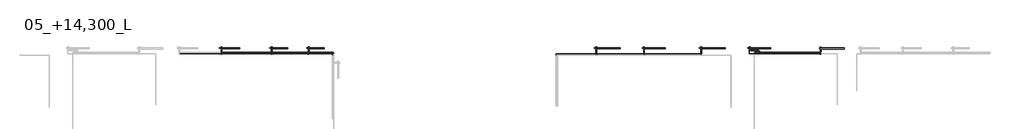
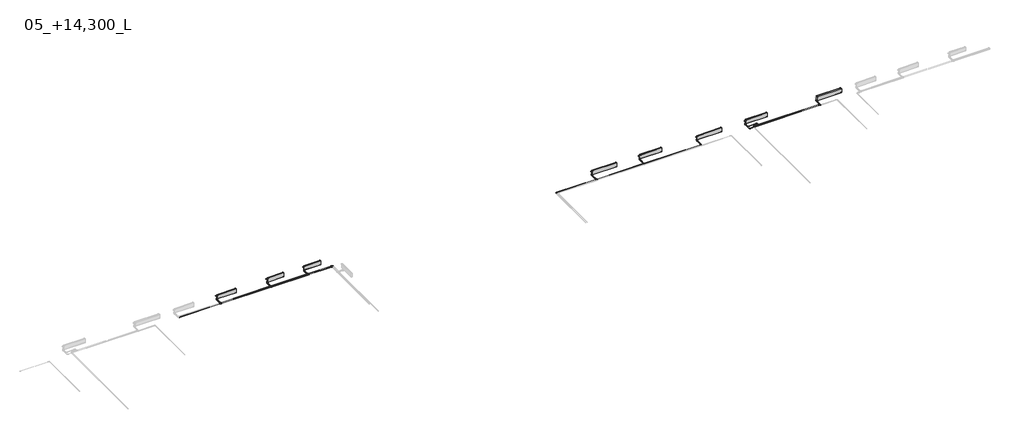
# One storey, part 14 of 15: 33 pipe fittings, 31 pipe segments, 8 proxies, 7 valves.
"""IFC4 building model written with IfcOpenShell, lengths in millimetres."""

from ifc_helpers import new_model, si_unit, point, frame, frame_2d, origin, place, context, project, spatial, circle_curve, trimmed, segment, composite_curve, outline, extrude, transform, mapped, element, save
from components import mechanical_equipment_fc217036, mechanical_equipment_c0c35615, mechanical_equipment_c68842d5, mechanical_equipment_da64a6a1, mechanical_equipment_6df30eec, pipe_fitting_44bd76dc, pipe_fitting_8f811e63, pipe_fitting_d927fdfb, valve_f5090433, valve_5b696a81, valve_d3faaedd, valve_8453c3c0

model = new_model("IFC4")

# Units and contexts
model_context = context("Model", 3, world=origin())
ifc_project = project(units=[si_unit("LENGTHUNIT", "METRE", prefix="MILLI")], contexts=[model_context])

# Site, building, storey
site = spatial("IfcSite", under=ifc_project)
building = spatial("IfcBuilding", under=site)
storey = spatial("IfcBuildingStorey", under=building, Name="05_+14,300_L", Elevation=14300.0)

# Proxies
placement = place(None, origin())
mechanical_equipment_shape = mechanical_equipment_fc217036(model_context)
element("IfcBuildingElementProxy", 1, Name="EVRA CV Д : 22-300-1800", ObjectType="EVRA CV Д : 22-300-1800", at=placement, inside=storey, context=model_context, shape_type="MappedRepresentation", body=[
    mapped(mechanical_equipment_shape, transform((67960.0, 128438.5368898, 14300.0), x_axis=(1.0, 0.0, 0.0), y_axis=(0.0, 1.0, 0.0), z_axis=(0.0, 0.0, 1.0))),
])
mechanical_equipment_2_shape = mechanical_equipment_c0c35615(model_context)
element("IfcBuildingElementProxy", 2, Name="EVRA CV Д : 21-300-1600", ObjectType="EVRA CV Д : 21-300-1600", at=placement, inside=storey, context=model_context, shape_type="MappedRepresentation", body=[
    mapped(mechanical_equipment_2_shape, transform((54900.0, 128438.5368898, 14300.0), x_axis=(1.0, 0.0, 0.0), y_axis=(0.0, 1.0, 0.0), z_axis=(0.0, 0.0, 1.0))),
])
element("IfcBuildingElementProxy", 3, Name="EVRA CV Д : 21-300-1600", ObjectType="EVRA CV Д : 21-300-1600", at=placement, inside=storey, context=model_context, shape_type="MappedRepresentation", body=[
    mapped(mechanical_equipment_2_shape, transform((62650.0, 128438.5368898, 14300.0), x_axis=(1.0, 0.0, 0.0), y_axis=(0.0, 1.0, 0.0), z_axis=(0.0, 0.0, 1.0))),
])
mechanical_equipment_3_shape = mechanical_equipment_c68842d5(model_context)
element("IfcBuildingElementProxy", 4, Name="EVRA CV Д : 21-300-1400", ObjectType="EVRA CV Д : 21-300-1400", at=placement, inside=storey, context=model_context, shape_type="MappedRepresentation", body=[
    mapped(mechanical_equipment_3_shape, transform((23800.0, 128438.5368898, 14300.0), x_axis=(1.0, 0.0, 0.0), y_axis=(0.0, 1.0, 0.0), z_axis=(0.0, 0.0, 1.0))),
])
mechanical_equipment_4_shape = mechanical_equipment_da64a6a1(model_context)
element("IfcBuildingElementProxy", 5, Name="EVRA CV Д : 21-300-1200", ObjectType="EVRA CV Д : 21-300-1200", at=placement, inside=storey, context=model_context, shape_type="MappedRepresentation", body=[
    mapped(mechanical_equipment_4_shape, transform((30100.0, 128438.5368898, 14300.0), x_axis=(1.0, 0.0, 0.0), y_axis=(0.0, 1.0, 0.0), z_axis=(0.0, 0.0, 1.0))),
])
element("IfcBuildingElementProxy", 6, Name="EVRA CV Д : 21-300-1200", ObjectType="EVRA CV Д : 21-300-1200", at=placement, inside=storey, context=model_context, shape_type="MappedRepresentation", body=[
    mapped(mechanical_equipment_4_shape, transform((27400.0, 128438.5368898, 14300.0), x_axis=(1.0, 0.0, 0.0), y_axis=(0.0, 1.0, 0.0), z_axis=(0.0, 0.0, 1.0))),
])
mechanical_equipment_5_shape = mechanical_equipment_6df30eec(model_context)
element("IfcBuildingElementProxy", 7, Name="EVRA CV Д : 21-300-1800", ObjectType="EVRA CV Д : 21-300-1800", at=placement, inside=storey, context=model_context, shape_type="MappedRepresentation", body=[
    mapped(mechanical_equipment_5_shape, transform((51500.0, 128438.5368898, 14300.0), x_axis=(1.0, 0.0, 0.0), y_axis=(0.0, 1.0, 0.0), z_axis=(0.0, 0.0, 1.0))),
])
element("IfcBuildingElementProxy", 8, Name="EVRA CV Д : 21-300-1800", ObjectType="EVRA CV Д : 21-300-1800", at=placement, inside=storey, context=model_context, shape_type="MappedRepresentation", body=[
    mapped(mechanical_equipment_5_shape, transform((59200.0, 128438.5368898, 14300.0), x_axis=(1.0, 0.0, 0.0), y_axis=(0.0, 1.0, 0.0), z_axis=(0.0, 0.0, 1.0))),
])

# Pipe fittings
pipe_fitting_shape = pipe_fitting_44bd76dc(model_context)
element("IfcPipeFitting", 9, ObjectType="ADSK_Пресс-фитинг ПЭ_Тройник : Пластик черный", at=placement, inside=storey, context=model_context, shape_type="MappedRepresentation", body=[
    mapped(pipe_fitting_shape, transform((23330.0, 128000.0, 14250.0), x_axis=(1.0, 0.0, 0.0), y_axis=(0.0, -1.0, 0.0), z_axis=(0.0, 0.0, -1.0))),
])
element("IfcPipeFitting", 10, ObjectType="ADSK_Пресс-фитинг ПЭ_Тройник : Пластик черный", at=placement, inside=storey, context=model_context, shape_type="MappedRepresentation", body=[
    mapped(pipe_fitting_shape, transform((23380.0, 128100.0, 14250.0), x_axis=(-1.0, 0.0, 0.0), y_axis=(0.0, -1.0, 0.0), z_axis=(0.0, 0.0, 1.0))),
])
element("IfcPipeFitting", 11, ObjectType="ADSK_Пресс-фитинг ПЭ_Тройник : Пластик черный", at=placement, inside=storey, context=model_context, shape_type="MappedRepresentation", body=[
    mapped(pipe_fitting_shape, transform((27030.0, 128000.0, 14250.0), x_axis=(-1.0, 0.0, 0.0), y_axis=(0.0, -1.0, 0.0), z_axis=(0.0, 0.0, 1.0))),
])
element("IfcPipeFitting", 12, ObjectType="ADSK_Пресс-фитинг ПЭ_Тройник : Пластик черный", at=placement, inside=storey, context=model_context, shape_type="MappedRepresentation", body=[
    mapped(pipe_fitting_shape, transform((27080.0, 128100.0, 14250.0), x_axis=(-1.0, 0.0, 0.0), y_axis=(0.0, -1.0, 0.0), z_axis=(0.0, 0.0, 1.0))),
])
element("IfcPipeFitting", 13, ObjectType="ADSK_Пресс-фитинг ПЭ_Тройник : Пластик черный", at=placement, inside=storey, context=model_context, shape_type="MappedRepresentation", body=[
    mapped(pipe_fitting_shape, transform((29780.0, 128100.0, 14250.0), x_axis=(1.0, 0.0, 0.0), y_axis=(0.0, -1.0, 0.0), z_axis=(0.0, 0.0, -1.0))),
])
element("IfcPipeFitting", 14, ObjectType="ADSK_Пресс-фитинг ПЭ_Тройник : Пластик черный", at=placement, inside=storey, context=model_context, shape_type="MappedRepresentation", body=[
    mapped(pipe_fitting_shape, transform((29730.0, 128000.0, 14250.0), x_axis=(1.0, 0.0, 0.0), y_axis=(0.0, -1.0, 0.0), z_axis=(0.0, 0.0, -1.0))),
])
element("IfcPipeFitting", 15, ObjectType="ADSK_Пресс-фитинг ПЭ_Тройник : Пластик черный", at=placement, inside=storey, context=model_context, shape_type="MappedRepresentation", body=[
    mapped(pipe_fitting_shape, transform((62830.0, 128100.0, 14250.0), x_axis=(-1.0, 0.0, 0.0), y_axis=(0.0, -1.0, 0.0), z_axis=(0.0, 0.0, 1.0))),
])
element("IfcPipeFitting", 16, ObjectType="ADSK_Пресс-фитинг ПЭ_Тройник : Пластик черный", at=placement, inside=storey, context=model_context, shape_type="MappedRepresentation", body=[
    mapped(pipe_fitting_shape, transform((50880.0, 128000.0, 14250.0), x_axis=(-1.0, 0.0, 0.0), y_axis=(0.0, -1.0, 0.0), z_axis=(0.0, 0.0, 1.0))),
])
element("IfcPipeFitting", 17, ObjectType="ADSK_Пресс-фитинг ПЭ_Тройник : Пластик черный", at=placement, inside=storey, context=model_context, shape_type="MappedRepresentation", body=[
    mapped(pipe_fitting_shape, transform((54380.0, 128000.0, 14250.0), x_axis=(-1.0, 0.0, 0.0), y_axis=(0.0, -1.0, 0.0), z_axis=(0.0, 0.0, 1.0))),
])
element("IfcPipeFitting", 18, ObjectType="ADSK_Пресс-фитинг ПЭ_Тройник : Пластик черный", at=placement, inside=storey, context=model_context, shape_type="MappedRepresentation", body=[
    mapped(pipe_fitting_shape, transform((67290.0, 128000.0, 14250.0), x_axis=(-1.0, 0.0, 0.0), y_axis=(0.0, -1.0, 0.0), z_axis=(0.0, 0.0, 1.0))),
])
pipe_fitting_2_shape = pipe_fitting_8f811e63(model_context)
element("IfcPipeFitting", 19, ObjectType="ADSK_Пресс-фитинг ПЭ_Поворот с фиксатором : Поворот трубы", at=placement, inside=storey, context=model_context, shape_type="MappedRepresentation", body=[
    mapped(pipe_fitting_2_shape, transform((31500.0000006, 128000.0, 14250.0), x_axis=(0.0, 1.0, 0.0), y_axis=(-1.0, 0.0, 0.0), z_axis=(0.0, 0.0, 1.0))),
])
element("IfcPipeFitting", 20, ObjectType="ADSK_Пресс-фитинг ПЭ_Поворот с фиксатором : Поворот трубы", at=placement, inside=storey, context=model_context, shape_type="MappedRepresentation", body=[
    mapped(pipe_fitting_2_shape, transform((31600.0000006, 128100.0, 14250.0), x_axis=(0.0, 1.0, 0.0), y_axis=(-1.0, 0.0, 0.0), z_axis=(0.0, 0.0, 1.0))),
])
element("IfcPipeFitting", 21, ObjectType="ADSK_Пресс-фитинг ПЭ_Поворот с фиксатором : Поворот трубы", at=placement, inside=storey, context=model_context, shape_type="MappedRepresentation", body=[
    mapped(pipe_fitting_2_shape, transform((47900.0, 128000.0, 14250.0), x_axis=(-1.0, 0.0, 0.0), y_axis=(0.0, -1.0, 0.0), z_axis=(0.0, 0.0, 1.0))),
])
element("IfcPipeFitting", 22, ObjectType="ADSK_Пресс-фитинг ПЭ_Поворот с фиксатором : Поворот трубы", at=placement, inside=storey, context=model_context, shape_type="MappedRepresentation", body=[
    mapped(pipe_fitting_2_shape, transform((62435.0, 128100.0, 14250.0), x_axis=(-1.0, 0.0, 0.0), y_axis=(0.0, -1.0, 0.0), z_axis=(0.0, 0.0, 1.0))),
])
element("IfcPipeFitting", 23, ObjectType="ADSK_Пресс-фитинг ПЭ_Поворот с фиксатором : Поворот трубы", at=placement, inside=storey, context=model_context, shape_type="MappedRepresentation", body=[
    mapped(pipe_fitting_2_shape, transform((62830.0, 128248.0, 14250.0), x_axis=(0.0, 1.0, 0.0), y_axis=(-1.0, 0.0, 0.0), z_axis=(0.0, 0.0, 1.0))),
])
element("IfcPipeFitting", 24, ObjectType="ADSK_Пресс-фитинг ПЭ_Поворот с фиксатором : Поворот трубы", at=placement, inside=storey, context=model_context, shape_type="MappedRepresentation", body=[
    mapped(pipe_fitting_2_shape, transform((62130.0, 128248.0, 14250.0), x_axis=(0.0, -1.0, 0.0), y_axis=(1.0, 0.0, 0.0), z_axis=(0.0, 0.0, 1.0))),
])
element("IfcPipeFitting", 25, ObjectType="ADSK_Пресс-фитинг ПЭ_Поворот с фиксатором : Поворот трубы", at=placement, inside=storey, context=model_context, shape_type="MappedRepresentation", body=[
    mapped(pipe_fitting_2_shape, transform((58580.0, 128000.0, 14250.0), x_axis=(1.0, 0.0, 0.0), y_axis=(0.0, 1.0, 0.0), z_axis=(0.0, 0.0, 1.0))),
])
element("IfcPipeFitting", 26, ObjectType="ADSK_Пресс-фитинг ПЭ_Поворот с фиксатором : Поворот трубы", at=placement, inside=storey, context=model_context, shape_type="MappedRepresentation", body=[
    mapped(pipe_fitting_2_shape, transform((62080.0, 128000.0, 14250.0), x_axis=(0.0, -1.0, 0.0), y_axis=(1.0, 0.0, 0.0), z_axis=(0.0, 0.0, 1.0))),
])
pipe_fitting_3_shape = pipe_fitting_d927fdfb(model_context)
element("IfcPipeFitting", 27, ObjectType="Трубка Г-образная VTm.481.PC из стены : VTm.481.PC", at=placement, inside=storey, context=model_context, shape_type="MappedRepresentation", body=[
    mapped(pipe_fitting_3_shape, transform((29730.0, 128488.0, 14250.0), x_axis=(1.0, 0.0, 0.0), y_axis=(0.0, 1.0, 0.0), z_axis=(0.0, 0.0, 1.0))),
])
element("IfcPipeFitting", 28, ObjectType="Трубка Г-образная VTm.481.PC из стены : VTm.481.PC", at=placement, inside=storey, context=model_context, shape_type="MappedRepresentation", body=[
    mapped(pipe_fitting_3_shape, transform((27030.0, 128488.0, 14250.0), x_axis=(1.0, 0.0, 0.0), y_axis=(0.0, 1.0, 0.0), z_axis=(0.0, 0.0, 1.0))),
])
element("IfcPipeFitting", 29, ObjectType="Трубка Г-образная VTm.481.PC из стены : VTm.481.PC", at=placement, inside=storey, context=model_context, shape_type="MappedRepresentation", body=[
    mapped(pipe_fitting_3_shape, transform((23330.0, 128488.0, 14250.0), x_axis=(1.0, 0.0, 0.0), y_axis=(0.0, 1.0, 0.0), z_axis=(0.0, 0.0, 1.0))),
])
element("IfcPipeFitting", 30, ObjectType="Трубка Г-образная VTm.481.PC из стены : VTm.481.PC", at=placement, inside=storey, context=model_context, shape_type="MappedRepresentation", body=[
    mapped(pipe_fitting_3_shape, transform((67290.0, 128488.0, 14250.0), x_axis=(1.0, 0.0, 0.0), y_axis=(0.0, 1.0, 0.0), z_axis=(0.0, 0.0, 1.0))),
])
element("IfcPipeFitting", 31, ObjectType="Трубка Г-образная VTm.481.PC из стены : VTm.481.PC", at=placement, inside=storey, context=model_context, shape_type="MappedRepresentation", body=[
    mapped(pipe_fitting_3_shape, transform((50830.0, 128488.0, 14250.0), x_axis=(1.0, 0.0, 0.0), y_axis=(0.0, 1.0, 0.0), z_axis=(0.0, 0.0, 1.0))),
])
element("IfcPipeFitting", 32, ObjectType="Трубка Г-образная VTm.481.PC из стены : VTm.481.PC", at=placement, inside=storey, context=model_context, shape_type="MappedRepresentation", body=[
    mapped(pipe_fitting_3_shape, transform((54330.0, 128488.0, 14250.0), x_axis=(1.0, 0.0, 0.0), y_axis=(0.0, 1.0, 0.0), z_axis=(0.0, 0.0, 1.0))),
])
element("IfcPipeFitting", 33, ObjectType="Трубка Г-образная VTm.481.PC из стены : VTm.481.PC", at=placement, inside=storey, context=model_context, shape_type="MappedRepresentation", body=[
    mapped(pipe_fitting_3_shape, transform((58530.0, 128488.0, 14250.0), x_axis=(1.0, 0.0, 0.0), y_axis=(0.0, 1.0, 0.0), z_axis=(0.0, 0.0, 1.0))),
])
element("IfcPipeFitting", 34, ObjectType="Трубка Г-образная VTm.481.PC из стены : VTm.481.PC", at=placement, inside=storey, context=model_context, shape_type="MappedRepresentation", body=[
    mapped(pipe_fitting_3_shape, transform((62080.0, 128488.0, 14250.0), x_axis=(1.0, 0.0, 0.0), y_axis=(0.0, 1.0, 0.0), z_axis=(0.0, 0.0, 1.0))),
])
element("IfcPipeFitting", 35, ObjectType="Трубка Г-образная VTm.481.PC из стены : VTm.481.PC", at=placement, inside=storey, context=model_context, shape_type="MappedRepresentation", body=[
    mapped(pipe_fitting_3_shape, transform((29780.0, 128488.0, 14250.0), x_axis=(1.0, 0.0, 0.0), y_axis=(0.0, 1.0, 0.0), z_axis=(0.0, 0.0, 1.0))),
])
element("IfcPipeFitting", 36, ObjectType="Трубка Г-образная VTm.481.PC из стены : VTm.481.PC", at=placement, inside=storey, context=model_context, shape_type="MappedRepresentation", body=[
    mapped(pipe_fitting_3_shape, transform((27080.0, 128488.0, 14250.0), x_axis=(1.0, 0.0, 0.0), y_axis=(0.0, 1.0, 0.0), z_axis=(0.0, 0.0, 1.0))),
])
element("IfcPipeFitting", 37, ObjectType="Трубка Г-образная VTm.481.PC из стены : VTm.481.PC", at=placement, inside=storey, context=model_context, shape_type="MappedRepresentation", body=[
    mapped(pipe_fitting_3_shape, transform((23380.0, 128488.0, 14250.0), x_axis=(1.0, 0.0, 0.0), y_axis=(0.0, 1.0, 0.0), z_axis=(0.0, 0.0, 1.0))),
])
element("IfcPipeFitting", 38, ObjectType="Трубка Г-образная VTm.481.PC из стены : VTm.481.PC", at=placement, inside=storey, context=model_context, shape_type="MappedRepresentation", body=[
    mapped(pipe_fitting_3_shape, transform((50880.0, 128488.0, 14250.0), x_axis=(1.0, 0.0, 0.0), y_axis=(0.0, 1.0, 0.0), z_axis=(0.0, 0.0, 1.0))),
])
element("IfcPipeFitting", 39, ObjectType="Трубка Г-образная VTm.481.PC из стены : VTm.481.PC", at=placement, inside=storey, context=model_context, shape_type="MappedRepresentation", body=[
    mapped(pipe_fitting_3_shape, transform((54380.0, 128488.0, 14250.0), x_axis=(1.0, 0.0, 0.0), y_axis=(0.0, 1.0, 0.0), z_axis=(0.0, 0.0, 1.0))),
])
element("IfcPipeFitting", 40, ObjectType="Трубка Г-образная VTm.481.PC из стены : VTm.481.PC", at=placement, inside=storey, context=model_context, shape_type="MappedRepresentation", body=[
    mapped(pipe_fitting_3_shape, transform((58580.0, 128488.0, 14250.0), x_axis=(1.0, 0.0, 0.0), y_axis=(0.0, 1.0, 0.0), z_axis=(0.0, 0.0, 1.0))),
])
element("IfcPipeFitting", 41, ObjectType="Трубка Г-образная VTm.481.PC из стены : VTm.481.PC", at=placement, inside=storey, context=model_context, shape_type="MappedRepresentation", body=[
    mapped(pipe_fitting_3_shape, transform((62130.0, 128488.0, 14250.0), x_axis=(1.0, 0.0, 0.0), y_axis=(0.0, 1.0, 0.0), z_axis=(0.0, 0.0, 1.0))),
])

# Pipe segments
element("IfcPipeSegment", 42, ObjectType="ADSK_Полиэтилен сшитый", at=placement, inside=storey, context=model_context, shape_type="SweptSolid", body=[
    extrude(outline(composite_curve([segment(trimmed(circle_curve(frame_2d((14250.0, 29730.0)), 8.0), [point((14250.0, 29738.0))], [point((14258.0, 29730.0))], False, "CARTESIAN"), True, "CONTINUOUS"), segment(trimmed(circle_curve(frame_2d((14250.0, 29730.0)), 8.0), [point((14258.0, 29730.0))], [point((14250.0, 29722.0))], False, "CARTESIAN"), True, "CONTINUOUS"), segment(trimmed(circle_curve(frame_2d((14250.0, 29730.0)), 8.0), [point((14250.0, 29722.0))], [point((14242.0, 29730.0))], False, "CARTESIAN"), True, "CONTINUOUS"), segment(trimmed(circle_curve(frame_2d((14250.0, 29730.0)), 8.0), [point((14242.0, 29730.0))], [point((14250.0, 29738.0))], False, "CARTESIAN"), True, "CONTINUOUS")], self_intersect=False)), frame((0.0, 128024.0, 0.0), z_axis=(0.0, 1.0, 0.0), x_axis=(0.0, 0.0, 1.0)), (0.0, 0.0, 1.0), 349.0),
])
element("IfcPipeSegment", 43, ObjectType="ADSK_Полиэтилен сшитый", at=placement, inside=storey, context=model_context, shape_type="SweptSolid", body=[
    extrude(outline(composite_curve([segment(trimmed(circle_curve(frame_2d((128000.0, 14250.0)), 8.0), [point((128008.0, 14250.0))], [point((128000.0, 14242.0))], False, "CARTESIAN"), True, "CONTINUOUS"), segment(trimmed(circle_curve(frame_2d((128000.0, 14250.0)), 8.0), [point((128000.0, 14242.0))], [point((127992.0, 14250.0))], False, "CARTESIAN"), True, "CONTINUOUS"), segment(trimmed(circle_curve(frame_2d((128000.0, 14250.0)), 8.0), [point((127992.0, 14250.0))], [point((128000.0, 14258.0))], False, "CARTESIAN"), True, "CONTINUOUS"), segment(trimmed(circle_curve(frame_2d((128000.0, 14250.0)), 8.0), [point((128000.0, 14258.0))], [point((128008.0, 14250.0))], False, "CARTESIAN"), True, "CONTINUOUS")], self_intersect=False)), frame((27050.0, 0.0, 0.0), z_axis=(1.0, 0.0, 0.0), x_axis=(0.0, 1.0, 0.0)), (0.0, 0.0, 1.0), 2660.0),
])
element("IfcPipeSegment", 44, ObjectType="ADSK_Полиэтилен сшитый", at=placement, inside=storey, context=model_context, shape_type="SweptSolid", body=[
    extrude(outline(composite_curve([segment(trimmed(circle_curve(frame_2d((14250.0, 29780.0)), 8.0), [point((14250.0, 29788.0))], [point((14258.0, 29780.0))], False, "CARTESIAN"), True, "CONTINUOUS"), segment(trimmed(circle_curve(frame_2d((14250.0, 29780.0)), 8.0), [point((14258.0, 29780.0))], [point((14250.0, 29772.0))], False, "CARTESIAN"), True, "CONTINUOUS"), segment(trimmed(circle_curve(frame_2d((14250.0, 29780.0)), 8.0), [point((14250.0, 29772.0))], [point((14242.0, 29780.0))], False, "CARTESIAN"), True, "CONTINUOUS"), segment(trimmed(circle_curve(frame_2d((14250.0, 29780.0)), 8.0), [point((14242.0, 29780.0))], [point((14250.0, 29788.0))], False, "CARTESIAN"), True, "CONTINUOUS")], self_intersect=False)), frame((0.0, 128124.0, 0.0), z_axis=(0.0, 1.0, 0.0), x_axis=(0.0, 0.0, 1.0)), (0.0, 0.0, 1.0), 249.0),
])
element("IfcPipeSegment", 45, ObjectType="ADSK_Полиэтилен сшитый", at=placement, inside=storey, context=model_context, shape_type="SweptSolid", body=[
    extrude(outline(composite_curve([segment(trimmed(circle_curve(frame_2d((128100.0, 14250.0)), 8.0), [point((128108.0, 14250.0))], [point((128100.0, 14242.0))], False, "CARTESIAN"), True, "CONTINUOUS"), segment(trimmed(circle_curve(frame_2d((128100.0, 14250.0)), 8.0), [point((128100.0, 14242.0))], [point((128092.0, 14250.0))], False, "CARTESIAN"), True, "CONTINUOUS"), segment(trimmed(circle_curve(frame_2d((128100.0, 14250.0)), 8.0), [point((128092.0, 14250.0))], [point((128100.0, 14258.0))], False, "CARTESIAN"), True, "CONTINUOUS"), segment(trimmed(circle_curve(frame_2d((128100.0, 14250.0)), 8.0), [point((128100.0, 14258.0))], [point((128108.0, 14250.0))], False, "CARTESIAN"), True, "CONTINUOUS")], self_intersect=False)), frame((27100.0, 0.0, 0.0), z_axis=(1.0, 0.0, 0.0), x_axis=(0.0, 1.0, 0.0)), (0.0, 0.0, 1.0), 2660.0),
])
element("IfcPipeSegment", 46, ObjectType="ADSK_Полиэтилен сшитый", at=placement, inside=storey, context=model_context, shape_type="SweptSolid", body=[
    extrude(outline(composite_curve([segment(trimmed(circle_curve(frame_2d((14250.0, 23380.0)), 8.0), [point((14250.0, 23388.0))], [point((14258.0, 23380.0))], False, "CARTESIAN"), True, "CONTINUOUS"), segment(trimmed(circle_curve(frame_2d((14250.0, 23380.0)), 8.0), [point((14258.0, 23380.0))], [point((14250.0, 23372.0))], False, "CARTESIAN"), True, "CONTINUOUS"), segment(trimmed(circle_curve(frame_2d((14250.0, 23380.0)), 8.0), [point((14250.0, 23372.0))], [point((14242.0, 23380.0))], False, "CARTESIAN"), True, "CONTINUOUS"), segment(trimmed(circle_curve(frame_2d((14250.0, 23380.0)), 8.0), [point((14242.0, 23380.0))], [point((14250.0, 23388.0))], False, "CARTESIAN"), True, "CONTINUOUS")], self_intersect=False)), frame((0.0, 128124.0, 0.0), z_axis=(0.0, 1.0, 0.0), x_axis=(0.0, 0.0, 1.0)), (0.0, 0.0, 1.0), 249.0),
])
element("IfcPipeSegment", 47, ObjectType="ADSK_Полиэтилен сшитый", at=placement, inside=storey, context=model_context, shape_type="SweptSolid", body=[
    extrude(outline(composite_curve([segment(trimmed(circle_curve(frame_2d((14250.0, 23330.0)), 8.0), [point((14250.0, 23338.0))], [point((14258.0, 23330.0))], False, "CARTESIAN"), True, "CONTINUOUS"), segment(trimmed(circle_curve(frame_2d((14250.0, 23330.0)), 8.0), [point((14258.0, 23330.0))], [point((14250.0, 23322.0))], False, "CARTESIAN"), True, "CONTINUOUS"), segment(trimmed(circle_curve(frame_2d((14250.0, 23330.0)), 8.0), [point((14250.0, 23322.0))], [point((14242.0, 23330.0))], False, "CARTESIAN"), True, "CONTINUOUS"), segment(trimmed(circle_curve(frame_2d((14250.0, 23330.0)), 8.0), [point((14242.0, 23330.0))], [point((14250.0, 23338.0))], False, "CARTESIAN"), True, "CONTINUOUS")], self_intersect=False)), frame((0.0, 128024.0, 0.0), z_axis=(0.0, 1.0, 0.0), x_axis=(0.0, 0.0, 1.0)), (0.0, 0.0, 1.0), 349.0),
])
element("IfcPipeSegment", 48, ObjectType="ADSK_Полиэтилен сшитый", at=placement, inside=storey, context=model_context, shape_type="SweptSolid", body=[
    extrude(outline(composite_curve([segment(trimmed(circle_curve(frame_2d((128000.0, 14250.0)), 8.0), [point((127992.0, 14250.0))], [point((128000.0, 14258.0))], False, "CARTESIAN"), True, "CONTINUOUS"), segment(trimmed(circle_curve(frame_2d((128000.0, 14250.0)), 8.0), [point((128000.0, 14258.0))], [point((128008.0, 14250.0))], False, "CARTESIAN"), True, "CONTINUOUS"), segment(trimmed(circle_curve(frame_2d((128000.0, 14250.0)), 8.0), [point((128008.0, 14250.0))], [point((128000.0, 14242.0))], False, "CARTESIAN"), True, "CONTINUOUS"), segment(trimmed(circle_curve(frame_2d((128000.0, 14250.0)), 8.0), [point((128000.0, 14242.0))], [point((127992.0, 14250.0))], False, "CARTESIAN"), True, "CONTINUOUS")], self_intersect=False)), frame((20278.0, 0.0, 0.0), z_axis=(1.0, 0.0, 0.0), x_axis=(0.0, 1.0, 0.0)), (0.0, 0.0, 1.0), 3032.0),
])
element("IfcPipeSegment", 49, ObjectType="ADSK_Полиэтилен сшитый", at=placement, inside=storey, context=model_context, shape_type="SweptSolid", body=[
    extrude(outline(composite_curve([segment(trimmed(circle_curve(frame_2d((14250.0, 27080.0)), 8.0), [point((14250.0, 27088.0))], [point((14258.0, 27080.0))], False, "CARTESIAN"), True, "CONTINUOUS"), segment(trimmed(circle_curve(frame_2d((14250.0, 27080.0)), 8.0), [point((14258.0, 27080.0))], [point((14250.0, 27072.0))], False, "CARTESIAN"), True, "CONTINUOUS"), segment(trimmed(circle_curve(frame_2d((14250.0, 27080.0)), 8.0), [point((14250.0, 27072.0))], [point((14242.0, 27080.0))], False, "CARTESIAN"), True, "CONTINUOUS"), segment(trimmed(circle_curve(frame_2d((14250.0, 27080.0)), 8.0), [point((14242.0, 27080.0))], [point((14250.0, 27088.0))], False, "CARTESIAN"), True, "CONTINUOUS")], self_intersect=False)), frame((0.0, 128124.0, 0.0), z_axis=(0.0, 1.0, 0.0), x_axis=(0.0, 0.0, 1.0)), (0.0, 0.0, 1.0), 249.0),
])
element("IfcPipeSegment", 50, ObjectType="ADSK_Полиэтилен сшитый", at=placement, inside=storey, context=model_context, shape_type="SweptSolid", body=[
    extrude(outline(composite_curve([segment(trimmed(circle_curve(frame_2d((14250.0, 27030.0)), 8.0), [point((14250.0, 27038.0))], [point((14258.0, 27030.0))], False, "CARTESIAN"), True, "CONTINUOUS"), segment(trimmed(circle_curve(frame_2d((14250.0, 27030.0)), 8.0), [point((14258.0, 27030.0))], [point((14250.0, 27022.0))], False, "CARTESIAN"), True, "CONTINUOUS"), segment(trimmed(circle_curve(frame_2d((14250.0, 27030.0)), 8.0), [point((14250.0, 27022.0))], [point((14242.0, 27030.0))], False, "CARTESIAN"), True, "CONTINUOUS"), segment(trimmed(circle_curve(frame_2d((14250.0, 27030.0)), 8.0), [point((14242.0, 27030.0))], [point((14250.0, 27038.0))], False, "CARTESIAN"), True, "CONTINUOUS")], self_intersect=False)), frame((0.0, 128024.0, 0.0), z_axis=(0.0, 1.0, 0.0), x_axis=(0.0, 0.0, 1.0)), (0.0, 0.0, 1.0), 349.0),
])
element("IfcPipeSegment", 51, ObjectType="ADSK_Полиэтилен сшитый", at=placement, inside=storey, context=model_context, shape_type="SweptSolid", body=[
    extrude(outline(composite_curve([segment(trimmed(circle_curve(frame_2d((128100.0, 14250.0)), 8.0), [point((128108.0, 14250.0))], [point((128100.0, 14242.0))], False, "CARTESIAN"), True, "CONTINUOUS"), segment(trimmed(circle_curve(frame_2d((128100.0, 14250.0)), 8.0), [point((128100.0, 14242.0))], [point((128092.0, 14250.0))], False, "CARTESIAN"), True, "CONTINUOUS"), segment(trimmed(circle_curve(frame_2d((128100.0, 14250.0)), 8.0), [point((128092.0, 14250.0))], [point((128100.0, 14258.0))], False, "CARTESIAN"), True, "CONTINUOUS"), segment(trimmed(circle_curve(frame_2d((128100.0, 14250.0)), 8.0), [point((128100.0, 14258.0))], [point((128108.0, 14250.0))], False, "CARTESIAN"), True, "CONTINUOUS")], self_intersect=False)), frame((23400.0, 0.0, 0.0), z_axis=(1.0, 0.0, 0.0), x_axis=(0.0, 1.0, 0.0)), (0.0, 0.0, 1.0), 3660.0),
])
element("IfcPipeSegment", 52, ObjectType="ADSK_Полиэтилен сшитый", at=placement, inside=storey, context=model_context, shape_type="SweptSolid", body=[
    extrude(outline(composite_curve([segment(trimmed(circle_curve(frame_2d((128000.0, 14250.0)), 8.0), [point((127992.0, 14250.0))], [point((128000.0, 14258.0))], False, "CARTESIAN"), True, "CONTINUOUS"), segment(trimmed(circle_curve(frame_2d((128000.0, 14250.0)), 8.0), [point((128000.0, 14258.0))], [point((128008.0, 14250.0))], False, "CARTESIAN"), True, "CONTINUOUS"), segment(trimmed(circle_curve(frame_2d((128000.0, 14250.0)), 8.0), [point((128008.0, 14250.0))], [point((128000.0, 14242.0))], False, "CARTESIAN"), True, "CONTINUOUS"), segment(trimmed(circle_curve(frame_2d((128000.0, 14250.0)), 8.0), [point((128000.0, 14242.0))], [point((127992.0, 14250.0))], False, "CARTESIAN"), True, "CONTINUOUS")], self_intersect=False)), frame((23350.0, 0.0, 0.0), z_axis=(1.0, 0.0, 0.0), x_axis=(0.0, 1.0, 0.0)), (0.0, 0.0, 1.0), 3660.0),
])
element("IfcPipeSegment", 53, ObjectType="ADSK_Полиэтилен сшитый", at=placement, inside=storey, context=model_context, shape_type="SweptSolid", body=[
    extrude(outline(composite_curve([segment(trimmed(circle_curve(frame_2d((128100.0, 14250.0)), 8.0), [point((128108.0, 14250.0))], [point((128100.0, 14242.0))], False, "CARTESIAN"), True, "CONTINUOUS"), segment(trimmed(circle_curve(frame_2d((128100.0, 14250.0)), 8.0), [point((128100.0, 14242.0))], [point((128092.0, 14250.0))], False, "CARTESIAN"), True, "CONTINUOUS"), segment(trimmed(circle_curve(frame_2d((128100.0, 14250.0)), 8.0), [point((128092.0, 14250.0))], [point((128100.0, 14258.0))], False, "CARTESIAN"), True, "CONTINUOUS"), segment(trimmed(circle_curve(frame_2d((128100.0, 14250.0)), 8.0), [point((128100.0, 14258.0))], [point((128108.0, 14250.0))], False, "CARTESIAN"), True, "CONTINUOUS")], self_intersect=False)), frame((29800.0, 0.0, 0.0), z_axis=(1.0, 0.0, 0.0), x_axis=(0.0, 1.0, 0.0)), (0.0, 0.0, 1.0), 1752.0000006),
])
element("IfcPipeSegment", 54, ObjectType="ADSK_Полиэтилен сшитый", at=placement, inside=storey, context=model_context, shape_type="SweptSolid", body=[
    extrude(outline(composite_curve([segment(trimmed(circle_curve(frame_2d((128000.0, 14250.0)), 8.0), [point((128008.0, 14250.0))], [point((128000.0, 14242.0))], False, "CARTESIAN"), True, "CONTINUOUS"), segment(trimmed(circle_curve(frame_2d((128000.0, 14250.0)), 8.0), [point((128000.0, 14242.0))], [point((127992.0, 14250.0))], False, "CARTESIAN"), True, "CONTINUOUS"), segment(trimmed(circle_curve(frame_2d((128000.0, 14250.0)), 8.0), [point((127992.0, 14250.0))], [point((128000.0, 14258.0))], False, "CARTESIAN"), True, "CONTINUOUS"), segment(trimmed(circle_curve(frame_2d((128000.0, 14250.0)), 8.0), [point((128000.0, 14258.0))], [point((128008.0, 14250.0))], False, "CARTESIAN"), True, "CONTINUOUS")], self_intersect=False)), frame((29750.0, 0.0, 0.0), z_axis=(1.0, 0.0, 0.0), x_axis=(0.0, 1.0, 0.0)), (0.0, 0.0, 1.0), 1702.0000006),
])
element("IfcPipeSegment", 55, ObjectType="ADSK_Полиэтилен сшитый", at=placement, inside=storey, context=model_context, shape_type="SweptSolid", body=[
    extrude(outline(composite_curve([segment(trimmed(circle_curve(frame_2d((14250.0, 58580.0)), 8.0), [point((14250.0, 58588.0))], [point((14258.0, 58580.0))], False, "CARTESIAN"), True, "CONTINUOUS"), segment(trimmed(circle_curve(frame_2d((14250.0, 58580.0)), 8.0), [point((14258.0, 58580.0))], [point((14250.0, 58572.0))], False, "CARTESIAN"), True, "CONTINUOUS"), segment(trimmed(circle_curve(frame_2d((14250.0, 58580.0)), 8.0), [point((14250.0, 58572.0))], [point((14242.0, 58580.0))], False, "CARTESIAN"), True, "CONTINUOUS"), segment(trimmed(circle_curve(frame_2d((14250.0, 58580.0)), 8.0), [point((14242.0, 58580.0))], [point((14250.0, 58588.0))], False, "CARTESIAN"), True, "CONTINUOUS")], self_intersect=False)), frame((0.0, 128048.0, 0.0), z_axis=(0.0, 1.0, 0.0), x_axis=(0.0, 0.0, 1.0)), (0.0, 0.0, 1.0), 325.0),
])
element("IfcPipeSegment", 56, ObjectType="ADSK_Полиэтилен сшитый", at=placement, inside=storey, context=model_context, shape_type="SweptSolid", body=[
    extrude(outline(composite_curve([segment(trimmed(circle_curve(frame_2d((14250.0, 58530.0)), 8.0), [point((14250.0, 58538.0))], [point((14258.0, 58530.0))], False, "CARTESIAN"), True, "CONTINUOUS"), segment(trimmed(circle_curve(frame_2d((14250.0, 58530.0)), 8.0), [point((14258.0, 58530.0))], [point((14250.0, 58522.0))], False, "CARTESIAN"), True, "CONTINUOUS"), segment(trimmed(circle_curve(frame_2d((14250.0, 58530.0)), 8.0), [point((14250.0, 58522.0))], [point((14242.0, 58530.0))], False, "CARTESIAN"), True, "CONTINUOUS"), segment(trimmed(circle_curve(frame_2d((14250.0, 58530.0)), 8.0), [point((14242.0, 58530.0))], [point((14250.0, 58538.0))], False, "CARTESIAN"), True, "CONTINUOUS")], self_intersect=False)), frame((0.0, 127926.0, 0.0), z_axis=(0.0, 1.0, 0.0), x_axis=(0.0, 0.0, 1.0)), (0.0, 0.0, 1.0), 447.0),
])
element("IfcPipeSegment", 57, ObjectType="ADSK_Полиэтилен сшитый", at=placement, inside=storey, context=model_context, shape_type="SweptSolid", body=[
    extrude(outline(composite_curve([segment(trimmed(circle_curve(frame_2d((128000.0, 14250.0)), 8.0), [point((127992.0, 14250.0))], [point((128000.0, 14258.0))], False, "CARTESIAN"), True, "CONTINUOUS"), segment(trimmed(circle_curve(frame_2d((128000.0, 14250.0)), 8.0), [point((128000.0, 14258.0))], [point((128008.0, 14250.0))], False, "CARTESIAN"), True, "CONTINUOUS"), segment(trimmed(circle_curve(frame_2d((128000.0, 14250.0)), 8.0), [point((128008.0, 14250.0))], [point((128000.0, 14242.0))], False, "CARTESIAN"), True, "CONTINUOUS"), segment(trimmed(circle_curve(frame_2d((128000.0, 14250.0)), 8.0), [point((128000.0, 14242.0))], [point((127992.0, 14250.0))], False, "CARTESIAN"), True, "CONTINUOUS")], self_intersect=False)), frame((54400.0, 0.0, 0.0), z_axis=(1.0, 0.0, 0.0), x_axis=(0.0, 1.0, 0.0)), (0.0, 0.0, 1.0), 4132.0),
])
element("IfcPipeSegment", 58, ObjectType="ADSK_Полиэтилен сшитый", at=placement, inside=storey, context=model_context, shape_type="SweptSolid", body=[
    extrude(outline(composite_curve([segment(trimmed(circle_curve(frame_2d((14250.0, 54380.0)), 8.0), [point((14250.0, 54388.0))], [point((14258.0, 54380.0))], False, "CARTESIAN"), True, "CONTINUOUS"), segment(trimmed(circle_curve(frame_2d((14250.0, 54380.0)), 8.0), [point((14258.0, 54380.0))], [point((14250.0, 54372.0))], False, "CARTESIAN"), True, "CONTINUOUS"), segment(trimmed(circle_curve(frame_2d((14250.0, 54380.0)), 8.0), [point((14250.0, 54372.0))], [point((14242.0, 54380.0))], False, "CARTESIAN"), True, "CONTINUOUS"), segment(trimmed(circle_curve(frame_2d((14250.0, 54380.0)), 8.0), [point((14242.0, 54380.0))], [point((14250.0, 54388.0))], False, "CARTESIAN"), True, "CONTINUOUS")], self_intersect=False)), frame((0.0, 128024.0, 0.0), z_axis=(0.0, 1.0, 0.0), x_axis=(0.0, 0.0, 1.0)), (0.0, 0.0, 1.0), 349.0),
])
element("IfcPipeSegment", 59, ObjectType="ADSK_Полиэтилен сшитый", at=placement, inside=storey, context=model_context, shape_type="SweptSolid", body=[
    extrude(outline(composite_curve([segment(trimmed(circle_curve(frame_2d((14250.0, 54330.0)), 8.0), [point((14250.0, 54338.0))], [point((14258.0, 54330.0))], False, "CARTESIAN"), True, "CONTINUOUS"), segment(trimmed(circle_curve(frame_2d((14250.0, 54330.0)), 8.0), [point((14258.0, 54330.0))], [point((14250.0, 54322.0))], False, "CARTESIAN"), True, "CONTINUOUS"), segment(trimmed(circle_curve(frame_2d((14250.0, 54330.0)), 8.0), [point((14250.0, 54322.0))], [point((14242.0, 54330.0))], False, "CARTESIAN"), True, "CONTINUOUS"), segment(trimmed(circle_curve(frame_2d((14250.0, 54330.0)), 8.0), [point((14242.0, 54330.0))], [point((14250.0, 54338.0))], False, "CARTESIAN"), True, "CONTINUOUS")], self_intersect=False)), frame((0.0, 127924.0, 0.0), z_axis=(0.0, 1.0, 0.0), x_axis=(0.0, 0.0, 1.0)), (0.0, 0.0, 1.0), 449.0),
])
element("IfcPipeSegment", 60, ObjectType="ADSK_Полиэтилен сшитый", at=placement, inside=storey, context=model_context, shape_type="SweptSolid", body=[
    extrude(outline(composite_curve([segment(trimmed(circle_curve(frame_2d((14250.0, 50880.0)), 8.0), [point((14250.0, 50888.0))], [point((14258.0, 50880.0))], False, "CARTESIAN"), True, "CONTINUOUS"), segment(trimmed(circle_curve(frame_2d((14250.0, 50880.0)), 8.0), [point((14258.0, 50880.0))], [point((14250.0, 50872.0))], False, "CARTESIAN"), True, "CONTINUOUS"), segment(trimmed(circle_curve(frame_2d((14250.0, 50880.0)), 8.0), [point((14250.0, 50872.0))], [point((14242.0, 50880.0))], False, "CARTESIAN"), True, "CONTINUOUS"), segment(trimmed(circle_curve(frame_2d((14250.0, 50880.0)), 8.0), [point((14242.0, 50880.0))], [point((14250.0, 50888.0))], False, "CARTESIAN"), True, "CONTINUOUS")], self_intersect=False)), frame((0.0, 128026.0, 0.0), z_axis=(0.0, 1.0, 0.0), x_axis=(0.0, 0.0, 1.0)), (0.0, 0.0, 1.0), 347.0),
])
element("IfcPipeSegment", 61, ObjectType="ADSK_Полиэтилен сшитый", at=placement, inside=storey, context=model_context, shape_type="SweptSolid", body=[
    extrude(outline(composite_curve([segment(trimmed(circle_curve(frame_2d((14250.0, 50830.0)), 8.0), [point((14250.0, 50838.0))], [point((14258.0, 50830.0))], False, "CARTESIAN"), True, "CONTINUOUS"), segment(trimmed(circle_curve(frame_2d((14250.0, 50830.0)), 8.0), [point((14258.0, 50830.0))], [point((14250.0, 50822.0))], False, "CARTESIAN"), True, "CONTINUOUS"), segment(trimmed(circle_curve(frame_2d((14250.0, 50830.0)), 8.0), [point((14250.0, 50822.0))], [point((14242.0, 50830.0))], False, "CARTESIAN"), True, "CONTINUOUS"), segment(trimmed(circle_curve(frame_2d((14250.0, 50830.0)), 8.0), [point((14242.0, 50830.0))], [point((14250.0, 50838.0))], False, "CARTESIAN"), True, "CONTINUOUS")], self_intersect=False)), frame((0.0, 127924.0, 0.0), z_axis=(0.0, 1.0, 0.0), x_axis=(0.0, 0.0, 1.0)), (0.0, 0.0, 1.0), 449.0),
])
element("IfcPipeSegment", 62, ObjectType="ADSK_Полиэтилен сшитый", at=placement, inside=storey, context=model_context, shape_type="SweptSolid", body=[
    extrude(outline(composite_curve([segment(trimmed(circle_curve(frame_2d((14250.0, 62830.0)), 8.0), [point((14250.0, 62838.0))], [point((14258.0, 62830.0))], False, "CARTESIAN"), True, "CONTINUOUS"), segment(trimmed(circle_curve(frame_2d((14250.0, 62830.0)), 8.0), [point((14258.0, 62830.0))], [point((14250.0, 62822.0))], False, "CARTESIAN"), True, "CONTINUOUS"), segment(trimmed(circle_curve(frame_2d((14250.0, 62830.0)), 8.0), [point((14250.0, 62822.0))], [point((14242.0, 62830.0))], False, "CARTESIAN"), True, "CONTINUOUS"), segment(trimmed(circle_curve(frame_2d((14250.0, 62830.0)), 8.0), [point((14242.0, 62830.0))], [point((14250.0, 62838.0))], False, "CARTESIAN"), True, "CONTINUOUS")], self_intersect=False)), frame((0.0, 128126.0, 0.0), z_axis=(0.0, 1.0, 0.0), x_axis=(0.0, 0.0, 1.0)), (0.0, 0.0, 1.0), 74.0),
])
element("IfcPipeSegment", 63, ObjectType="ADSK_Полиэтилен сшитый", at=placement, inside=storey, context=model_context, shape_type="SweptSolid", body=[
    extrude(outline(composite_curve([segment(trimmed(circle_curve(frame_2d((128100.0, 14250.0)), 8.0), [point((128092.0, 14250.0))], [point((128100.0, 14258.0))], False, "CARTESIAN"), True, "CONTINUOUS"), segment(trimmed(circle_curve(frame_2d((128100.0, 14250.0)), 8.0), [point((128100.0, 14258.0))], [point((128108.0, 14250.0))], False, "CARTESIAN"), True, "CONTINUOUS"), segment(trimmed(circle_curve(frame_2d((128100.0, 14250.0)), 8.0), [point((128108.0, 14250.0))], [point((128100.0, 14242.0))], False, "CARTESIAN"), True, "CONTINUOUS"), segment(trimmed(circle_curve(frame_2d((128100.0, 14250.0)), 8.0), [point((128100.0, 14242.0))], [point((128092.0, 14250.0))], False, "CARTESIAN"), True, "CONTINUOUS")], self_intersect=False)), frame((62483.0, 0.0, 0.0), z_axis=(1.0, 0.0, 0.0), x_axis=(0.0, 1.0, 0.0)), (0.0, 0.0, 1.0), 328.0),
])
element("IfcPipeSegment", 64, ObjectType="ADSK_Полиэтилен сшитый", at=placement, inside=storey, context=model_context, shape_type="SweptSolid", body=[
    extrude(outline(composite_curve([segment(trimmed(circle_curve(frame_2d((128000.0, 14250.0)), 8.0), [point((127992.0, 14250.0))], [point((128000.0, 14258.0))], False, "CARTESIAN"), True, "CONTINUOUS"), segment(trimmed(circle_curve(frame_2d((128000.0, 14250.0)), 8.0), [point((128000.0, 14258.0))], [point((128008.0, 14250.0))], False, "CARTESIAN"), True, "CONTINUOUS"), segment(trimmed(circle_curve(frame_2d((128000.0, 14250.0)), 8.0), [point((128008.0, 14250.0))], [point((128000.0, 14242.0))], False, "CARTESIAN"), True, "CONTINUOUS"), segment(trimmed(circle_curve(frame_2d((128000.0, 14250.0)), 8.0), [point((128000.0, 14242.0))], [point((127992.0, 14250.0))], False, "CARTESIAN"), True, "CONTINUOUS")], self_intersect=False)), frame((62128.0, 0.0, 0.0), z_axis=(1.0, 0.0, 0.0), x_axis=(0.0, 1.0, 0.0)), (0.0, 0.0, 1.0), 5142.0),
])
element("IfcPipeSegment", 65, ObjectType="ADSK_Полиэтилен сшитый", at=placement, inside=storey, context=model_context, shape_type="SweptSolid", body=[
    extrude(outline(composite_curve([segment(trimmed(circle_curve(frame_2d((14250.0, 67340.0)), 8.0), [point((14250.0, 67348.0))], [point((14258.0, 67340.0))], False, "CARTESIAN"), True, "CONTINUOUS"), segment(trimmed(circle_curve(frame_2d((14250.0, 67340.0)), 8.0), [point((14258.0, 67340.0))], [point((14250.0, 67332.0))], False, "CARTESIAN"), True, "CONTINUOUS"), segment(trimmed(circle_curve(frame_2d((14250.0, 67340.0)), 8.0), [point((14250.0, 67332.0))], [point((14242.0, 67340.0))], False, "CARTESIAN"), True, "CONTINUOUS"), segment(trimmed(circle_curve(frame_2d((14250.0, 67340.0)), 8.0), [point((14242.0, 67340.0))], [point((14250.0, 67348.0))], False, "CARTESIAN"), True, "CONTINUOUS")], self_intersect=False)), frame((0.0, 128148.0, 0.0), z_axis=(0.0, 1.0, 0.0), x_axis=(0.0, 0.0, 1.0)), (0.0, 0.0, 1.0), 225.0),
])
element("IfcPipeSegment", 66, ObjectType="ADSK_Полиэтилен сшитый", at=placement, inside=storey, context=model_context, shape_type="SweptSolid", body=[
    extrude(outline(composite_curve([segment(trimmed(circle_curve(frame_2d((128100.0, 14250.0)), 8.0), [point((128092.0, 14250.0))], [point((128100.0, 14258.0))], False, "CARTESIAN"), True, "CONTINUOUS"), segment(trimmed(circle_curve(frame_2d((128100.0, 14250.0)), 8.0), [point((128100.0, 14258.0))], [point((128108.0, 14250.0))], False, "CARTESIAN"), True, "CONTINUOUS"), segment(trimmed(circle_curve(frame_2d((128100.0, 14250.0)), 8.0), [point((128108.0, 14250.0))], [point((128100.0, 14242.0))], False, "CARTESIAN"), True, "CONTINUOUS"), segment(trimmed(circle_curve(frame_2d((128100.0, 14250.0)), 8.0), [point((128100.0, 14242.0))], [point((128092.0, 14250.0))], False, "CARTESIAN"), True, "CONTINUOUS")], self_intersect=False)), frame((62849.0, 0.0, 0.0), z_axis=(1.0, 0.0, 0.0), x_axis=(0.0, 1.0, 0.0)), (0.0, 0.0, 1.0), 4443.0),
])
element("IfcPipeSegment", 67, ObjectType="ADSK_Полиэтилен сшитый", at=placement, inside=storey, context=model_context, shape_type="SweptSolid", body=[
    extrude(outline(composite_curve([segment(trimmed(circle_curve(frame_2d((14250.0, 67290.0)), 8.0), [point((14250.0, 67298.0))], [point((14258.0, 67290.0))], False, "CARTESIAN"), True, "CONTINUOUS"), segment(trimmed(circle_curve(frame_2d((14250.0, 67290.0)), 8.0), [point((14258.0, 67290.0))], [point((14250.0, 67282.0))], False, "CARTESIAN"), True, "CONTINUOUS"), segment(trimmed(circle_curve(frame_2d((14250.0, 67290.0)), 8.0), [point((14250.0, 67282.0))], [point((14242.0, 67290.0))], False, "CARTESIAN"), True, "CONTINUOUS"), segment(trimmed(circle_curve(frame_2d((14250.0, 67290.0)), 8.0), [point((14242.0, 67290.0))], [point((14250.0, 67298.0))], False, "CARTESIAN"), True, "CONTINUOUS")], self_intersect=False)), frame((0.0, 128024.0, 0.0), z_axis=(0.0, 1.0, 0.0), x_axis=(0.0, 0.0, 1.0)), (0.0, 0.0, 1.0), 349.0),
])
element("IfcPipeSegment", 68, ObjectType="ADSK_Полиэтилен сшитый", at=placement, inside=storey, context=model_context, shape_type="SweptSolid", body=[
    extrude(outline(composite_curve([segment(trimmed(circle_curve(frame_2d((14250.0, 62080.0)), 8.0), [point((14250.0, 62072.0))], [point((14242.0, 62080.0))], False, "CARTESIAN"), True, "CONTINUOUS"), segment(trimmed(circle_curve(frame_2d((14250.0, 62080.0)), 8.0), [point((14242.0, 62080.0))], [point((14250.0, 62088.0))], False, "CARTESIAN"), True, "CONTINUOUS"), segment(trimmed(circle_curve(frame_2d((14250.0, 62080.0)), 8.0), [point((14250.0, 62088.0))], [point((14258.0, 62080.0))], False, "CARTESIAN"), True, "CONTINUOUS"), segment(trimmed(circle_curve(frame_2d((14250.0, 62080.0)), 8.0), [point((14258.0, 62080.0))], [point((14250.0, 62072.0))], False, "CARTESIAN"), True, "CONTINUOUS")], self_intersect=False)), frame((0.0, 128048.0, 0.0), z_axis=(0.0, 1.0, 0.0), x_axis=(0.0, 0.0, 1.0)), (0.0, 0.0, 1.0), 325.0),
])
element("IfcPipeSegment", 69, ObjectType="ADSK_Полиэтилен сшитый", at=placement, inside=storey, context=model_context, shape_type="SweptSolid", body=[
    extrude(outline(composite_curve([segment(trimmed(circle_curve(frame_2d((14250.0, 62130.0)), 8.0), [point((14250.0, 62122.0))], [point((14242.0, 62130.0))], False, "CARTESIAN"), True, "CONTINUOUS"), segment(trimmed(circle_curve(frame_2d((14250.0, 62130.0)), 8.0), [point((14242.0, 62130.0))], [point((14250.0, 62138.0))], False, "CARTESIAN"), True, "CONTINUOUS"), segment(trimmed(circle_curve(frame_2d((14250.0, 62130.0)), 8.0), [point((14250.0, 62138.0))], [point((14258.0, 62130.0))], False, "CARTESIAN"), True, "CONTINUOUS"), segment(trimmed(circle_curve(frame_2d((14250.0, 62130.0)), 8.0), [point((14258.0, 62130.0))], [point((14250.0, 62122.0))], False, "CARTESIAN"), True, "CONTINUOUS")], self_intersect=False)), frame((0.0, 128296.0, 0.0), z_axis=(0.0, 1.0, 0.0), x_axis=(0.0, 0.0, 1.0)), (0.0, 0.0, 1.0), 77.0),
])
element("IfcPipeSegment", 70, ObjectType="ADSK_Полиэтилен сшитый", at=placement, inside=storey, context=model_context, shape_type="SweptSolid", body=[
    extrude(outline(composite_curve([segment(trimmed(circle_curve(frame_2d((128248.0, 14250.0)), 8.0), [point((128256.0, 14250.0))], [point((128248.0, 14242.0))], False, "CARTESIAN"), True, "CONTINUOUS"), segment(trimmed(circle_curve(frame_2d((128248.0, 14250.0)), 8.0), [point((128248.0, 14242.0))], [point((128240.0, 14250.0))], False, "CARTESIAN"), True, "CONTINUOUS"), segment(trimmed(circle_curve(frame_2d((128248.0, 14250.0)), 8.0), [point((128240.0, 14250.0))], [point((128248.0, 14258.0))], False, "CARTESIAN"), True, "CONTINUOUS"), segment(trimmed(circle_curve(frame_2d((128248.0, 14250.0)), 8.0), [point((128248.0, 14258.0))], [point((128256.0, 14250.0))], False, "CARTESIAN"), True, "CONTINUOUS")], self_intersect=False)), frame((62178.0, 0.0, 0.0), z_axis=(1.0, 0.0, 0.0), x_axis=(0.0, 1.0, 0.0)), (0.0, 0.0, 1.0), 604.0),
])
element("IfcPipeSegment", 71, ObjectType="ADSK_Полиэтилен сшитый", at=placement, inside=storey, context=model_context, shape_type="SweptSolid", body=[
    extrude(outline(composite_curve([segment(trimmed(circle_curve(frame_2d((128000.0, 14250.0)), 8.0), [point((127992.0, 14250.0))], [point((128000.0, 14258.0))], False, "CARTESIAN"), True, "CONTINUOUS"), segment(trimmed(circle_curve(frame_2d((128000.0, 14250.0)), 8.0), [point((128000.0, 14258.0))], [point((128008.0, 14250.0))], False, "CARTESIAN"), True, "CONTINUOUS"), segment(trimmed(circle_curve(frame_2d((128000.0, 14250.0)), 8.0), [point((128008.0, 14250.0))], [point((128000.0, 14242.0))], False, "CARTESIAN"), True, "CONTINUOUS"), segment(trimmed(circle_curve(frame_2d((128000.0, 14250.0)), 8.0), [point((128000.0, 14242.0))], [point((127992.0, 14250.0))], False, "CARTESIAN"), True, "CONTINUOUS")], self_intersect=False)), frame((47948.0, 0.0, 0.0), z_axis=(1.0, 0.0, 0.0), x_axis=(0.0, 1.0, 0.0)), (0.0, 0.0, 1.0), 2913.0),
])
element("IfcPipeSegment", 72, ObjectType="ADSK_Полиэтилен сшитый", at=placement, inside=storey, context=model_context, shape_type="SweptSolid", body=[
    extrude(outline(composite_curve([segment(trimmed(circle_curve(frame_2d((128000.0, 14250.0)), 8.0), [point((127992.0, 14250.0))], [point((128000.0, 14258.0))], False, "CARTESIAN"), True, "CONTINUOUS"), segment(trimmed(circle_curve(frame_2d((128000.0, 14250.0)), 8.0), [point((128000.0, 14258.0))], [point((128008.0, 14250.0))], False, "CARTESIAN"), True, "CONTINUOUS"), segment(trimmed(circle_curve(frame_2d((128000.0, 14250.0)), 8.0), [point((128008.0, 14250.0))], [point((128000.0, 14242.0))], False, "CARTESIAN"), True, "CONTINUOUS"), segment(trimmed(circle_curve(frame_2d((128000.0, 14250.0)), 8.0), [point((128000.0, 14242.0))], [point((127992.0, 14250.0))], False, "CARTESIAN"), True, "CONTINUOUS")], self_intersect=False)), frame((50899.0, 0.0, 0.0), z_axis=(1.0, 0.0, 0.0), x_axis=(0.0, 1.0, 0.0)), (0.0, 0.0, 1.0), 3461.0),
])

# Valves
valve_shape = valve_f5090433(model_context)
element("IfcValve", 73, ObjectType="EVRA_Термоголовка EVRA MТB140 : EVRA MТB140", at=placement, inside=storey, context=model_context, shape_type="MappedRepresentation", body=[
    mapped(valve_shape, transform((30300.0, 128413.0, 14650.0), x_axis=(1.0, 0.0, 0.0), y_axis=(0.0, 1.0, 0.0), z_axis=(0.0, 0.0, 1.0))),
])
element("IfcValve", 74, ObjectType="EVRA_Термоголовка EVRA MТB140 : EVRA MТB140", at=placement, inside=storey, context=model_context, shape_type="MappedRepresentation", body=[
    mapped(valve_shape, transform((27600.0, 128413.0, 14650.0), x_axis=(1.0, 0.0, 0.0), y_axis=(0.0, 1.0, 0.0), z_axis=(0.0, 0.0, 1.0))),
])
valve_2_shape = valve_5b696a81(model_context)
element("IfcValve", 75, ObjectType="EVRA_Термоголовка EVRA MТB140 : EVRA MТB140", at=placement, inside=storey, context=model_context, shape_type="MappedRepresentation", body=[
    mapped(valve_2_shape, transform((24000.0, 128413.0, 14650.0), x_axis=(1.0, 0.0, 0.0), y_axis=(0.0, 1.0, 0.0), z_axis=(0.0, 0.0, 1.0))),
])
valve_3_shape = valve_d3faaedd(model_context)
element("IfcValve", 76, ObjectType="EVRA_Термоголовка EVRA MТB140 : EVRA MТB140", at=placement, inside=storey, context=model_context, shape_type="MappedRepresentation", body=[
    mapped(valve_3_shape, transform((51700.0, 128413.0, 14650.0), x_axis=(1.0, 0.0, 0.0), y_axis=(0.0, 1.0, 0.0), z_axis=(0.0, 0.0, 1.0))),
])
element("IfcValve", 77, ObjectType="EVRA_Термоголовка EVRA MТB140 : EVRA MТB140", at=placement, inside=storey, context=model_context, shape_type="MappedRepresentation", body=[
    mapped(valve_3_shape, transform((59400.0, 128413.0, 14650.0), x_axis=(1.0, 0.0, 0.0), y_axis=(0.0, 1.0, 0.0), z_axis=(0.0, 0.0, 1.0))),
])
valve_4_shape = valve_8453c3c0(model_context)
element("IfcValve", 78, ObjectType="EVRA_Термоголовка EVRA MТB140 : EVRA MТB140", at=placement, inside=storey, context=model_context, shape_type="MappedRepresentation", body=[
    mapped(valve_4_shape, transform((55100.0, 128413.0, 14650.0), x_axis=(1.0, 0.0, 0.0), y_axis=(0.0, 1.0, 0.0), z_axis=(0.0, 0.0, 1.0))),
])
element("IfcValve", 79, ObjectType="EVRA_Термоголовка EVRA MТB140 : EVRA MТB140", at=placement, inside=storey, context=model_context, shape_type="MappedRepresentation", body=[
    mapped(valve_4_shape, transform((62850.0, 128413.0, 14650.0), x_axis=(1.0, 0.0, 0.0), y_axis=(0.0, 1.0, 0.0), z_axis=(0.0, 0.0, 1.0))),
])

save(model, "model.ifc")
